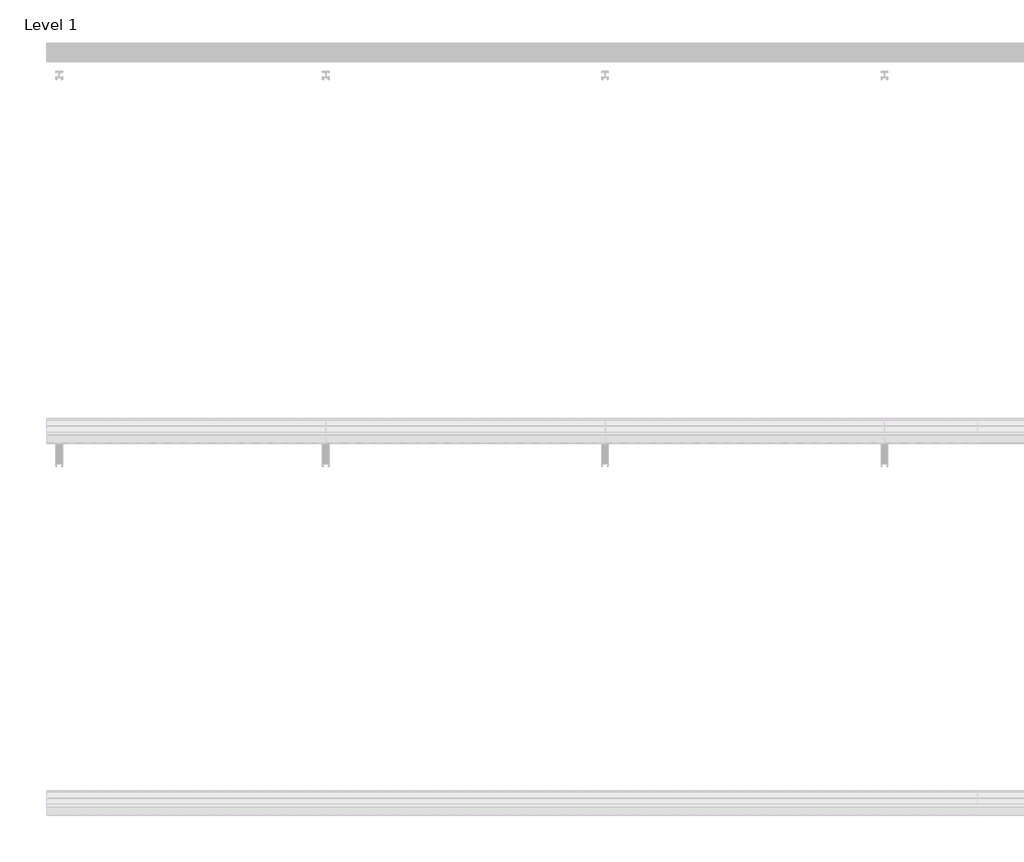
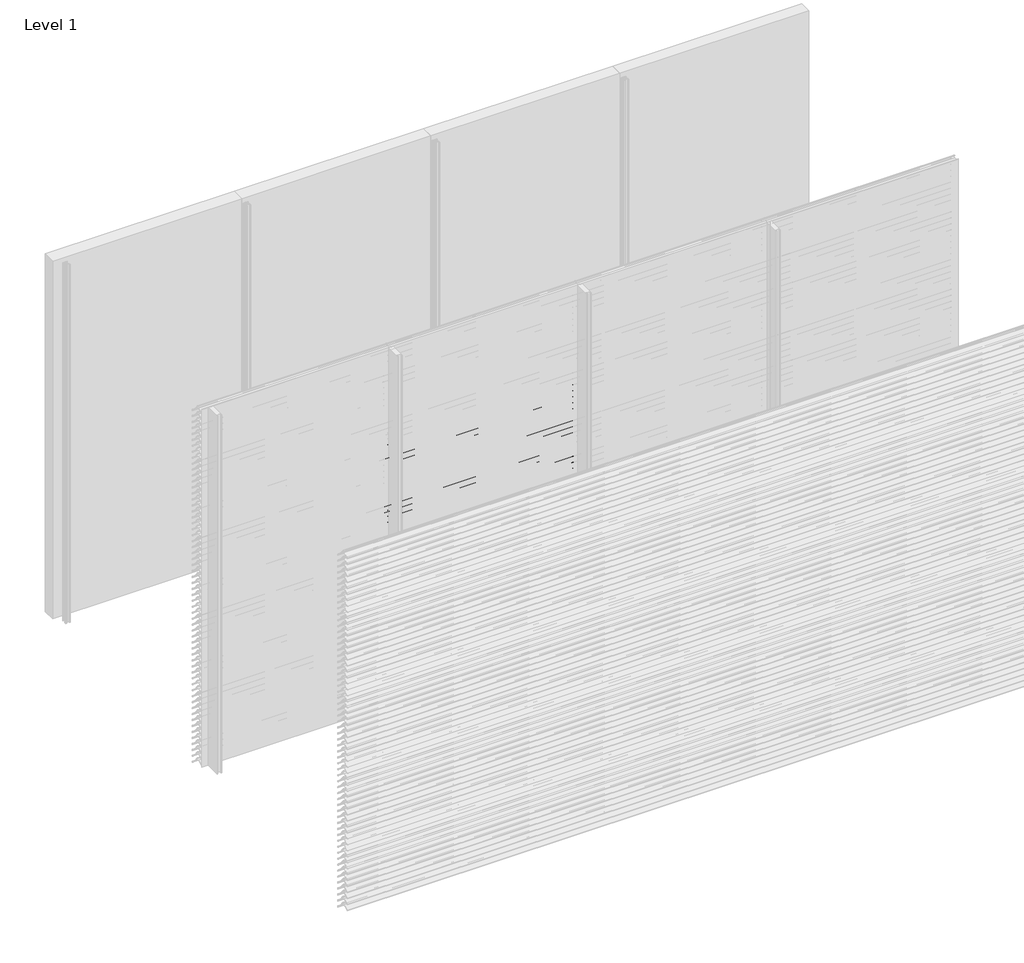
# One storey, part 28 of 173: 17 proxies.
"""IFC4 building model written with IfcOpenShell, lengths in millimetres."""

from ifc_helpers import new_model, si_unit, point, frame, frame_2d, origin, place, context, project, spatial, polyline, circle_curve, trimmed, segment, composite_curve, outline, extrude, element, save

model = new_model("IFC4")

# Units and contexts
model_context = context("Model", 3, world=origin())
ifc_project = project(units=[si_unit("LENGTHUNIT", "METRE", prefix="MILLI")], contexts=[model_context])

# Site, building, storey
site = spatial("IfcSite", under=ifc_project)
building = spatial("IfcBuilding", under=site)
storey = spatial("IfcBuildingStorey", under=building, Name="Level 1", Elevation=0.0)

# Proxies
placement = place(None, origin())
element("IfcBuildingElementProxy", 1, Name="Wall Sweeps", at=placement, inside=storey, context=model_context, shape_type="SweptSolid", body=[
    extrude(outline(composite_curve([segment(polyline([(-47998.0, 2109.1474905), (-47998.0, 2111.6227417)]), True, "CONTINUOUS"), segment(trimmed(circle_curve(frame_2d((-47951.2682172, 2066.2200208)), 65.1557103), [point((-47998.0, 2111.6227417))], [point((-47954.4014323, 2131.3003524))], False, "CARTESIAN"), True, "CONTINUOUS"), segment(polyline([(-47954.4014323, 2131.3003524), (-47934.8315836, 2131.3003524)]), True, "CONTINUOUS"), segment(trimmed(circle_curve(frame_2d((-47732.7329489, 2278.5533172)), 250.0545817), [point((-47934.8315836, 2131.3003524))], [point((-47941.4452143, 2140.8344583))], False, "CARTESIAN"), True, "CONTINUOUS"), segment(trimmed(circle_curve(frame_2d((-47953.2981792, 2135.1737835)), 13.1352966), [point((-47941.4452143, 2140.8344583))], [point((-47953.8171475, 2148.298824))], True, "CARTESIAN"), True, "CONTINUOUS"), segment(polyline([(-47953.8171475, 2148.298824), (-47953.8171475, 2150.0)]), True, "CONTINUOUS"), segment(trimmed(circle_curve(frame_2d((-47953.2981792, 2135.1737835)), 14.8352966), [point((-47953.8171475, 2150.0))], [point((-47939.9637661, 2141.6760487))], False, "CARTESIAN"), True, "CONTINUOUS"), segment(trimmed(circle_curve(frame_2d((-47732.7329489, 2278.5533172)), 248.3545817), [point((-47939.9637661, 2141.6760487))], [point((-47873.8787895, 2074.2059416))], True, "CARTESIAN"), True, "CONTINUOUS"), segment(trimmed(circle_curve(frame_2d((-47883.8147537, 2061.6649442)), 16.0), [point((-47873.8787895, 2074.2059416))], [point((-47867.8648347, 2060.4))], False, "CARTESIAN"), True, "CONTINUOUS"), segment(polyline([(-47867.8648347, 2060.4), (-47869.6712069, 2060.4)]), True, "CONTINUOUS"), segment(trimmed(circle_curve(frame_2d((-47883.8147537, 2061.6649442)), 14.2), [point((-47869.6712069, 2060.4))], [point((-47874.9518628, 2072.7594998))], True, "CARTESIAN"), True, "CONTINUOUS"), segment(trimmed(circle_curve(frame_2d((-47732.7329489, 2278.5533172)), 250.1545817), [point((-47874.9518628, 2072.7594998))], [point((-47933.7064024, 2129.6003524))], False, "CARTESIAN"), True, "CONTINUOUS"), segment(polyline([(-47933.7064024, 2129.6003524), (-47954.3602632, 2129.6003524)]), True, "CONTINUOUS"), segment(trimmed(circle_curve(frame_2d((-47951.2682172, 2066.2200208)), 63.4557103), [point((-47954.3602632, 2129.6003524))], [point((-47998.0, 2109.1474905))], True, "CARTESIAN"), True, "CONTINUOUS")], self_intersect=False)), frame((1500.0, 0.0, 0.0), z_axis=(1.0, 0.0, 0.0), x_axis=(0.0, 1.0, 0.0)), (0.0, 0.0, 1.0), 1500.0),
])
element("IfcBuildingElementProxy", 2, Name="Wall Sweeps", at=placement, inside=storey, context=model_context, shape_type="SweptSolid", body=[
    extrude(outline(composite_curve([segment(polyline([(-47998.0, 2059.1474905), (-47998.0, 2061.6227417)]), True, "CONTINUOUS"), segment(trimmed(circle_curve(frame_2d((-47951.2682172, 2016.2200208)), 65.1557103), [point((-47998.0, 2061.6227417))], [point((-47954.4014323, 2081.3003524))], False, "CARTESIAN"), True, "CONTINUOUS"), segment(polyline([(-47954.4014323, 2081.3003524), (-47934.8315836, 2081.3003524)]), True, "CONTINUOUS"), segment(trimmed(circle_curve(frame_2d((-47732.7329489, 2228.5533172)), 250.0545817), [point((-47934.8315836, 2081.3003524))], [point((-47941.4452143, 2090.8344583))], False, "CARTESIAN"), True, "CONTINUOUS"), segment(trimmed(circle_curve(frame_2d((-47953.2981792, 2085.1737835)), 13.1352966), [point((-47941.4452143, 2090.8344583))], [point((-47953.8171475, 2098.298824))], True, "CARTESIAN"), True, "CONTINUOUS"), segment(polyline([(-47953.8171475, 2098.298824), (-47953.8171475, 2100.0)]), True, "CONTINUOUS"), segment(trimmed(circle_curve(frame_2d((-47953.2981792, 2085.1737835)), 14.8352966), [point((-47953.8171475, 2100.0))], [point((-47939.9637661, 2091.6760487))], False, "CARTESIAN"), True, "CONTINUOUS"), segment(trimmed(circle_curve(frame_2d((-47732.7329489, 2228.5533172)), 248.3545817), [point((-47939.9637661, 2091.6760487))], [point((-47873.8787895, 2024.2059416))], True, "CARTESIAN"), True, "CONTINUOUS"), segment(trimmed(circle_curve(frame_2d((-47883.8147537, 2011.6649442)), 16.0), [point((-47873.8787895, 2024.2059416))], [point((-47867.8648347, 2010.4))], False, "CARTESIAN"), True, "CONTINUOUS"), segment(polyline([(-47867.8648347, 2010.4), (-47869.6712069, 2010.4)]), True, "CONTINUOUS"), segment(trimmed(circle_curve(frame_2d((-47883.8147537, 2011.6649442)), 14.2), [point((-47869.6712069, 2010.4))], [point((-47874.9518628, 2022.7594998))], True, "CARTESIAN"), True, "CONTINUOUS"), segment(trimmed(circle_curve(frame_2d((-47732.7329489, 2228.5533172)), 250.1545817), [point((-47874.9518628, 2022.7594998))], [point((-47933.7064024, 2079.6003524))], False, "CARTESIAN"), True, "CONTINUOUS"), segment(polyline([(-47933.7064024, 2079.6003524), (-47954.3602632, 2079.6003524)]), True, "CONTINUOUS"), segment(trimmed(circle_curve(frame_2d((-47951.2682172, 2016.2200208)), 63.4557103), [point((-47954.3602632, 2079.6003524))], [point((-47998.0, 2059.1474905))], True, "CARTESIAN"), True, "CONTINUOUS")], self_intersect=False)), frame((1500.0, 0.0, 0.0), z_axis=(1.0, 0.0, 0.0), x_axis=(0.0, 1.0, 0.0)), (0.0, 0.0, 1.0), 1500.0),
])
element("IfcBuildingElementProxy", 3, Name="Wall Sweeps", at=placement, inside=storey, context=model_context, shape_type="SweptSolid", body=[
    extrude(outline(composite_curve([segment(polyline([(-47998.0, 2009.1474905), (-47998.0, 2011.6227417)]), True, "CONTINUOUS"), segment(trimmed(circle_curve(frame_2d((-47951.2682172, 1966.2200208)), 65.1557103), [point((-47998.0, 2011.6227417))], [point((-47954.4014323, 2031.3003524))], False, "CARTESIAN"), True, "CONTINUOUS"), segment(polyline([(-47954.4014323, 2031.3003524), (-47934.8315836, 2031.3003524)]), True, "CONTINUOUS"), segment(trimmed(circle_curve(frame_2d((-47732.7329489, 2178.5533172)), 250.0545817), [point((-47934.8315836, 2031.3003524))], [point((-47941.4452143, 2040.8344583))], False, "CARTESIAN"), True, "CONTINUOUS"), segment(trimmed(circle_curve(frame_2d((-47953.2981792, 2035.1737835)), 13.1352966), [point((-47941.4452143, 2040.8344583))], [point((-47953.8171475, 2048.298824))], True, "CARTESIAN"), True, "CONTINUOUS"), segment(polyline([(-47953.8171475, 2048.298824), (-47953.8171475, 2050.0)]), True, "CONTINUOUS"), segment(trimmed(circle_curve(frame_2d((-47953.2981792, 2035.1737835)), 14.8352966), [point((-47953.8171475, 2050.0))], [point((-47939.9637661, 2041.6760487))], False, "CARTESIAN"), True, "CONTINUOUS"), segment(trimmed(circle_curve(frame_2d((-47732.7329489, 2178.5533172)), 248.3545817), [point((-47939.9637661, 2041.6760487))], [point((-47873.8787895, 1974.2059416))], True, "CARTESIAN"), True, "CONTINUOUS"), segment(trimmed(circle_curve(frame_2d((-47883.8147537, 1961.6649442)), 16.0), [point((-47873.8787895, 1974.2059416))], [point((-47867.8648347, 1960.4))], False, "CARTESIAN"), True, "CONTINUOUS"), segment(polyline([(-47867.8648347, 1960.4), (-47869.6712069, 1960.4)]), True, "CONTINUOUS"), segment(trimmed(circle_curve(frame_2d((-47883.8147537, 1961.6649442)), 14.2), [point((-47869.6712069, 1960.4))], [point((-47874.9518628, 1972.7594998))], True, "CARTESIAN"), True, "CONTINUOUS"), segment(trimmed(circle_curve(frame_2d((-47732.7329489, 2178.5533172)), 250.1545817), [point((-47874.9518628, 1972.7594998))], [point((-47933.7064024, 2029.6003524))], False, "CARTESIAN"), True, "CONTINUOUS"), segment(polyline([(-47933.7064024, 2029.6003524), (-47954.3602632, 2029.6003524)]), True, "CONTINUOUS"), segment(trimmed(circle_curve(frame_2d((-47951.2682172, 1966.2200208)), 63.4557103), [point((-47954.3602632, 2029.6003524))], [point((-47998.0, 2009.1474905))], True, "CARTESIAN"), True, "CONTINUOUS")], self_intersect=False)), frame((1500.0, 0.0, 0.0), z_axis=(1.0, 0.0, 0.0), x_axis=(0.0, 1.0, 0.0)), (0.0, 0.0, 1.0), 1500.0),
])
element("IfcBuildingElementProxy", 4, Name="Wall Sweeps", at=placement, inside=storey, context=model_context, shape_type="SweptSolid", body=[
    extrude(outline(composite_curve([segment(polyline([(-47998.0, 1959.1474905), (-47998.0, 1961.6227417)]), True, "CONTINUOUS"), segment(trimmed(circle_curve(frame_2d((-47951.2682172, 1916.2200208)), 65.1557103), [point((-47998.0, 1961.6227417))], [point((-47954.4014323, 1981.3003524))], False, "CARTESIAN"), True, "CONTINUOUS"), segment(polyline([(-47954.4014323, 1981.3003524), (-47934.8315836, 1981.3003524)]), True, "CONTINUOUS"), segment(trimmed(circle_curve(frame_2d((-47732.7329489, 2128.5533172)), 250.0545817), [point((-47934.8315836, 1981.3003524))], [point((-47941.4452143, 1990.8344583))], False, "CARTESIAN"), True, "CONTINUOUS"), segment(trimmed(circle_curve(frame_2d((-47953.2981792, 1985.1737835)), 13.1352966), [point((-47941.4452143, 1990.8344583))], [point((-47953.8171475, 1998.298824))], True, "CARTESIAN"), True, "CONTINUOUS"), segment(polyline([(-47953.8171475, 1998.298824), (-47953.8171475, 2000.0)]), True, "CONTINUOUS"), segment(trimmed(circle_curve(frame_2d((-47953.2981792, 1985.1737835)), 14.8352966), [point((-47953.8171475, 2000.0))], [point((-47939.9637661, 1991.6760487))], False, "CARTESIAN"), True, "CONTINUOUS"), segment(trimmed(circle_curve(frame_2d((-47732.7329489, 2128.5533172)), 248.3545817), [point((-47939.9637661, 1991.6760487))], [point((-47873.8787895, 1924.2059416))], True, "CARTESIAN"), True, "CONTINUOUS"), segment(trimmed(circle_curve(frame_2d((-47883.8147537, 1911.6649442)), 16.0), [point((-47873.8787895, 1924.2059416))], [point((-47867.8648347, 1910.4))], False, "CARTESIAN"), True, "CONTINUOUS"), segment(polyline([(-47867.8648347, 1910.4), (-47869.6712069, 1910.4)]), True, "CONTINUOUS"), segment(trimmed(circle_curve(frame_2d((-47883.8147537, 1911.6649442)), 14.2), [point((-47869.6712069, 1910.4))], [point((-47874.9518628, 1922.7594998))], True, "CARTESIAN"), True, "CONTINUOUS"), segment(trimmed(circle_curve(frame_2d((-47732.7329489, 2128.5533172)), 250.1545817), [point((-47874.9518628, 1922.7594998))], [point((-47933.7064024, 1979.6003524))], False, "CARTESIAN"), True, "CONTINUOUS"), segment(polyline([(-47933.7064024, 1979.6003524), (-47954.3602632, 1979.6003524)]), True, "CONTINUOUS"), segment(trimmed(circle_curve(frame_2d((-47951.2682172, 1916.2200208)), 63.4557103), [point((-47954.3602632, 1979.6003524))], [point((-47998.0, 1959.1474905))], True, "CARTESIAN"), True, "CONTINUOUS")], self_intersect=False)), frame((1500.0, 0.0, 0.0), z_axis=(1.0, 0.0, 0.0), x_axis=(0.0, 1.0, 0.0)), (0.0, 0.0, 1.0), 1500.0),
])
element("IfcBuildingElementProxy", 5, Name="Wall Sweeps", at=placement, inside=storey, context=model_context, shape_type="SweptSolid", body=[
    extrude(outline(composite_curve([segment(polyline([(-47998.0, 1909.1474905), (-47998.0, 1911.6227417)]), True, "CONTINUOUS"), segment(trimmed(circle_curve(frame_2d((-47951.2682172, 1866.2200208)), 65.1557103), [point((-47998.0, 1911.6227417))], [point((-47954.4014323, 1931.3003524))], False, "CARTESIAN"), True, "CONTINUOUS"), segment(polyline([(-47954.4014323, 1931.3003524), (-47934.8315836, 1931.3003524)]), True, "CONTINUOUS"), segment(trimmed(circle_curve(frame_2d((-47732.7329489, 2078.5533172)), 250.0545817), [point((-47934.8315836, 1931.3003524))], [point((-47941.4452143, 1940.8344583))], False, "CARTESIAN"), True, "CONTINUOUS"), segment(trimmed(circle_curve(frame_2d((-47953.2981792, 1935.1737835)), 13.1352966), [point((-47941.4452143, 1940.8344583))], [point((-47953.8171475, 1948.298824))], True, "CARTESIAN"), True, "CONTINUOUS"), segment(polyline([(-47953.8171475, 1948.298824), (-47953.8171475, 1950.0)]), True, "CONTINUOUS"), segment(trimmed(circle_curve(frame_2d((-47953.2981792, 1935.1737835)), 14.8352966), [point((-47953.8171475, 1950.0))], [point((-47939.9637661, 1941.6760487))], False, "CARTESIAN"), True, "CONTINUOUS"), segment(trimmed(circle_curve(frame_2d((-47732.7329489, 2078.5533172)), 248.3545817), [point((-47939.9637661, 1941.6760487))], [point((-47873.8787895, 1874.2059416))], True, "CARTESIAN"), True, "CONTINUOUS"), segment(trimmed(circle_curve(frame_2d((-47883.8147537, 1861.6649442)), 16.0), [point((-47873.8787895, 1874.2059416))], [point((-47867.8648347, 1860.4))], False, "CARTESIAN"), True, "CONTINUOUS"), segment(polyline([(-47867.8648347, 1860.4), (-47869.6712069, 1860.4)]), True, "CONTINUOUS"), segment(trimmed(circle_curve(frame_2d((-47883.8147537, 1861.6649442)), 14.2), [point((-47869.6712069, 1860.4))], [point((-47874.9518628, 1872.7594998))], True, "CARTESIAN"), True, "CONTINUOUS"), segment(trimmed(circle_curve(frame_2d((-47732.7329489, 2078.5533172)), 250.1545817), [point((-47874.9518628, 1872.7594998))], [point((-47933.7064024, 1929.6003524))], False, "CARTESIAN"), True, "CONTINUOUS"), segment(polyline([(-47933.7064024, 1929.6003524), (-47954.3602632, 1929.6003524)]), True, "CONTINUOUS"), segment(trimmed(circle_curve(frame_2d((-47951.2682172, 1866.2200208)), 63.4557103), [point((-47954.3602632, 1929.6003524))], [point((-47998.0, 1909.1474905))], True, "CARTESIAN"), True, "CONTINUOUS")], self_intersect=False)), frame((1500.0, 0.0, 0.0), z_axis=(1.0, 0.0, 0.0), x_axis=(0.0, 1.0, 0.0)), (0.0, 0.0, 1.0), 1500.0),
])
element("IfcBuildingElementProxy", 6, Name="Wall Sweeps", at=placement, inside=storey, context=model_context, shape_type="SweptSolid", body=[
    extrude(outline(composite_curve([segment(polyline([(-47998.0, 1859.1474905), (-47998.0, 1861.6227417)]), True, "CONTINUOUS"), segment(trimmed(circle_curve(frame_2d((-47951.2682172, 1816.2200208)), 65.1557103), [point((-47998.0, 1861.6227417))], [point((-47954.4014323, 1881.3003524))], False, "CARTESIAN"), True, "CONTINUOUS"), segment(polyline([(-47954.4014323, 1881.3003524), (-47934.8315836, 1881.3003524)]), True, "CONTINUOUS"), segment(trimmed(circle_curve(frame_2d((-47732.7329489, 2028.5533172)), 250.0545817), [point((-47934.8315836, 1881.3003524))], [point((-47941.4452143, 1890.8344583))], False, "CARTESIAN"), True, "CONTINUOUS"), segment(trimmed(circle_curve(frame_2d((-47953.2981792, 1885.1737835)), 13.1352966), [point((-47941.4452143, 1890.8344583))], [point((-47953.8171475, 1898.298824))], True, "CARTESIAN"), True, "CONTINUOUS"), segment(polyline([(-47953.8171475, 1898.298824), (-47953.8171475, 1900.0)]), True, "CONTINUOUS"), segment(trimmed(circle_curve(frame_2d((-47953.2981792, 1885.1737835)), 14.8352966), [point((-47953.8171475, 1900.0))], [point((-47939.9637661, 1891.6760487))], False, "CARTESIAN"), True, "CONTINUOUS"), segment(trimmed(circle_curve(frame_2d((-47732.7329489, 2028.5533172)), 248.3545817), [point((-47939.9637661, 1891.6760487))], [point((-47873.8787895, 1824.2059416))], True, "CARTESIAN"), True, "CONTINUOUS"), segment(trimmed(circle_curve(frame_2d((-47883.8147537, 1811.6649442)), 16.0), [point((-47873.8787895, 1824.2059416))], [point((-47867.8648347, 1810.4))], False, "CARTESIAN"), True, "CONTINUOUS"), segment(polyline([(-47867.8648347, 1810.4), (-47869.6712069, 1810.4)]), True, "CONTINUOUS"), segment(trimmed(circle_curve(frame_2d((-47883.8147537, 1811.6649442)), 14.2), [point((-47869.6712069, 1810.4))], [point((-47874.9518628, 1822.7594998))], True, "CARTESIAN"), True, "CONTINUOUS"), segment(trimmed(circle_curve(frame_2d((-47732.7329489, 2028.5533172)), 250.1545817), [point((-47874.9518628, 1822.7594998))], [point((-47933.7064024, 1879.6003524))], False, "CARTESIAN"), True, "CONTINUOUS"), segment(polyline([(-47933.7064024, 1879.6003524), (-47954.3602632, 1879.6003524)]), True, "CONTINUOUS"), segment(trimmed(circle_curve(frame_2d((-47951.2682172, 1816.2200208)), 63.4557103), [point((-47954.3602632, 1879.6003524))], [point((-47998.0, 1859.1474905))], True, "CARTESIAN"), True, "CONTINUOUS")], self_intersect=False)), frame((1500.0, 0.0, 0.0), z_axis=(1.0, 0.0, 0.0), x_axis=(0.0, 1.0, 0.0)), (0.0, 0.0, 1.0), 1500.0),
])
element("IfcBuildingElementProxy", 7, Name="Wall Sweeps", at=placement, inside=storey, context=model_context, shape_type="SweptSolid", body=[
    extrude(outline(composite_curve([segment(polyline([(-47998.0, 1809.1474905), (-47998.0, 1811.6227417)]), True, "CONTINUOUS"), segment(trimmed(circle_curve(frame_2d((-47951.2682172, 1766.2200208)), 65.1557103), [point((-47998.0, 1811.6227417))], [point((-47954.4014323, 1831.3003524))], False, "CARTESIAN"), True, "CONTINUOUS"), segment(polyline([(-47954.4014323, 1831.3003524), (-47934.8315836, 1831.3003524)]), True, "CONTINUOUS"), segment(trimmed(circle_curve(frame_2d((-47732.7329489, 1978.5533172)), 250.0545817), [point((-47934.8315836, 1831.3003524))], [point((-47941.4452143, 1840.8344583))], False, "CARTESIAN"), True, "CONTINUOUS"), segment(trimmed(circle_curve(frame_2d((-47953.2981792, 1835.1737835)), 13.1352966), [point((-47941.4452143, 1840.8344583))], [point((-47953.8171475, 1848.298824))], True, "CARTESIAN"), True, "CONTINUOUS"), segment(polyline([(-47953.8171475, 1848.298824), (-47953.8171475, 1850.0)]), True, "CONTINUOUS"), segment(trimmed(circle_curve(frame_2d((-47953.2981792, 1835.1737835)), 14.8352966), [point((-47953.8171475, 1850.0))], [point((-47939.9637661, 1841.6760487))], False, "CARTESIAN"), True, "CONTINUOUS"), segment(trimmed(circle_curve(frame_2d((-47732.7329489, 1978.5533172)), 248.3545817), [point((-47939.9637661, 1841.6760487))], [point((-47873.8787895, 1774.2059416))], True, "CARTESIAN"), True, "CONTINUOUS"), segment(trimmed(circle_curve(frame_2d((-47883.8147537, 1761.6649442)), 16.0), [point((-47873.8787895, 1774.2059416))], [point((-47867.8648347, 1760.4))], False, "CARTESIAN"), True, "CONTINUOUS"), segment(polyline([(-47867.8648347, 1760.4), (-47869.6712069, 1760.4)]), True, "CONTINUOUS"), segment(trimmed(circle_curve(frame_2d((-47883.8147537, 1761.6649442)), 14.2), [point((-47869.6712069, 1760.4))], [point((-47874.9518628, 1772.7594998))], True, "CARTESIAN"), True, "CONTINUOUS"), segment(trimmed(circle_curve(frame_2d((-47732.7329489, 1978.5533172)), 250.1545817), [point((-47874.9518628, 1772.7594998))], [point((-47933.7064024, 1829.6003524))], False, "CARTESIAN"), True, "CONTINUOUS"), segment(polyline([(-47933.7064024, 1829.6003524), (-47954.3602632, 1829.6003524)]), True, "CONTINUOUS"), segment(trimmed(circle_curve(frame_2d((-47951.2682172, 1766.2200208)), 63.4557103), [point((-47954.3602632, 1829.6003524))], [point((-47998.0, 1809.1474905))], True, "CARTESIAN"), True, "CONTINUOUS")], self_intersect=False)), frame((1500.0, 0.0, 0.0), z_axis=(1.0, 0.0, 0.0), x_axis=(0.0, 1.0, 0.0)), (0.0, 0.0, 1.0), 1500.0),
])
element("IfcBuildingElementProxy", 8, Name="Wall Sweeps", at=placement, inside=storey, context=model_context, shape_type="SweptSolid", body=[
    extrude(outline(composite_curve([segment(polyline([(-47998.0, 1759.1474905), (-47998.0, 1761.6227417)]), True, "CONTINUOUS"), segment(trimmed(circle_curve(frame_2d((-47951.2682172, 1716.2200208)), 65.1557103), [point((-47998.0, 1761.6227417))], [point((-47954.4014323, 1781.3003524))], False, "CARTESIAN"), True, "CONTINUOUS"), segment(polyline([(-47954.4014323, 1781.3003524), (-47934.8315836, 1781.3003524)]), True, "CONTINUOUS"), segment(trimmed(circle_curve(frame_2d((-47732.7329489, 1928.5533172)), 250.0545817), [point((-47934.8315836, 1781.3003524))], [point((-47941.4452143, 1790.8344583))], False, "CARTESIAN"), True, "CONTINUOUS"), segment(trimmed(circle_curve(frame_2d((-47953.2981792, 1785.1737835)), 13.1352966), [point((-47941.4452143, 1790.8344583))], [point((-47953.8171475, 1798.298824))], True, "CARTESIAN"), True, "CONTINUOUS"), segment(polyline([(-47953.8171475, 1798.298824), (-47953.8171475, 1800.0)]), True, "CONTINUOUS"), segment(trimmed(circle_curve(frame_2d((-47953.2981792, 1785.1737835)), 14.8352966), [point((-47953.8171475, 1800.0))], [point((-47939.9637661, 1791.6760487))], False, "CARTESIAN"), True, "CONTINUOUS"), segment(trimmed(circle_curve(frame_2d((-47732.7329489, 1928.5533172)), 248.3545817), [point((-47939.9637661, 1791.6760487))], [point((-47873.8787895, 1724.2059416))], True, "CARTESIAN"), True, "CONTINUOUS"), segment(trimmed(circle_curve(frame_2d((-47883.8147537, 1711.6649442)), 16.0), [point((-47873.8787895, 1724.2059416))], [point((-47867.8648347, 1710.4))], False, "CARTESIAN"), True, "CONTINUOUS"), segment(polyline([(-47867.8648347, 1710.4), (-47869.6712069, 1710.4)]), True, "CONTINUOUS"), segment(trimmed(circle_curve(frame_2d((-47883.8147537, 1711.6649442)), 14.2), [point((-47869.6712069, 1710.4))], [point((-47874.9518628, 1722.7594998))], True, "CARTESIAN"), True, "CONTINUOUS"), segment(trimmed(circle_curve(frame_2d((-47732.7329489, 1928.5533172)), 250.1545817), [point((-47874.9518628, 1722.7594998))], [point((-47933.7064024, 1779.6003524))], False, "CARTESIAN"), True, "CONTINUOUS"), segment(polyline([(-47933.7064024, 1779.6003524), (-47954.3602632, 1779.6003524)]), True, "CONTINUOUS"), segment(trimmed(circle_curve(frame_2d((-47951.2682172, 1716.2200208)), 63.4557103), [point((-47954.3602632, 1779.6003524))], [point((-47998.0, 1759.1474905))], True, "CARTESIAN"), True, "CONTINUOUS")], self_intersect=False)), frame((1500.0, 0.0, 0.0), z_axis=(1.0, 0.0, 0.0), x_axis=(0.0, 1.0, 0.0)), (0.0, 0.0, 1.0), 1500.0),
])
element("IfcBuildingElementProxy", 9, Name="Wall Sweeps", at=placement, inside=storey, context=model_context, shape_type="SweptSolid", body=[
    extrude(outline(composite_curve([segment(polyline([(-47998.0, 1709.1474905), (-47998.0, 1711.6227417)]), True, "CONTINUOUS"), segment(trimmed(circle_curve(frame_2d((-47951.2682172, 1666.2200208)), 65.1557103), [point((-47998.0, 1711.6227417))], [point((-47954.4014323, 1731.3003524))], False, "CARTESIAN"), True, "CONTINUOUS"), segment(polyline([(-47954.4014323, 1731.3003524), (-47934.8315836, 1731.3003524)]), True, "CONTINUOUS"), segment(trimmed(circle_curve(frame_2d((-47732.7329489, 1878.5533172)), 250.0545817), [point((-47934.8315836, 1731.3003524))], [point((-47941.4452143, 1740.8344583))], False, "CARTESIAN"), True, "CONTINUOUS"), segment(trimmed(circle_curve(frame_2d((-47953.2981792, 1735.1737835)), 13.1352966), [point((-47941.4452143, 1740.8344583))], [point((-47953.8171475, 1748.298824))], True, "CARTESIAN"), True, "CONTINUOUS"), segment(polyline([(-47953.8171475, 1748.298824), (-47953.8171475, 1750.0)]), True, "CONTINUOUS"), segment(trimmed(circle_curve(frame_2d((-47953.2981792, 1735.1737835)), 14.8352966), [point((-47953.8171475, 1750.0))], [point((-47939.9637661, 1741.6760487))], False, "CARTESIAN"), True, "CONTINUOUS"), segment(trimmed(circle_curve(frame_2d((-47732.7329489, 1878.5533172)), 248.3545817), [point((-47939.9637661, 1741.6760487))], [point((-47873.8787895, 1674.2059416))], True, "CARTESIAN"), True, "CONTINUOUS"), segment(trimmed(circle_curve(frame_2d((-47883.8147537, 1661.6649442)), 16.0), [point((-47873.8787895, 1674.2059416))], [point((-47867.8648347, 1660.4))], False, "CARTESIAN"), True, "CONTINUOUS"), segment(polyline([(-47867.8648347, 1660.4), (-47869.6712069, 1660.4)]), True, "CONTINUOUS"), segment(trimmed(circle_curve(frame_2d((-47883.8147537, 1661.6649442)), 14.2), [point((-47869.6712069, 1660.4))], [point((-47874.9518628, 1672.7594998))], True, "CARTESIAN"), True, "CONTINUOUS"), segment(trimmed(circle_curve(frame_2d((-47732.7329489, 1878.5533172)), 250.1545817), [point((-47874.9518628, 1672.7594998))], [point((-47933.7064024, 1729.6003524))], False, "CARTESIAN"), True, "CONTINUOUS"), segment(polyline([(-47933.7064024, 1729.6003524), (-47954.3602632, 1729.6003524)]), True, "CONTINUOUS"), segment(trimmed(circle_curve(frame_2d((-47951.2682172, 1666.2200208)), 63.4557103), [point((-47954.3602632, 1729.6003524))], [point((-47998.0, 1709.1474905))], True, "CARTESIAN"), True, "CONTINUOUS")], self_intersect=False)), frame((1500.0, 0.0, 0.0), z_axis=(1.0, 0.0, 0.0), x_axis=(0.0, 1.0, 0.0)), (0.0, 0.0, 1.0), 1500.0),
])
element("IfcBuildingElementProxy", 10, Name="Wall Sweeps", at=placement, inside=storey, context=model_context, shape_type="SweptSolid", body=[
    extrude(outline(composite_curve([segment(polyline([(-47998.0, 1659.1474905), (-47998.0, 1661.6227417)]), True, "CONTINUOUS"), segment(trimmed(circle_curve(frame_2d((-47951.2682172, 1616.2200208)), 65.1557103), [point((-47998.0, 1661.6227417))], [point((-47954.4014323, 1681.3003524))], False, "CARTESIAN"), True, "CONTINUOUS"), segment(polyline([(-47954.4014323, 1681.3003524), (-47934.8315836, 1681.3003524)]), True, "CONTINUOUS"), segment(trimmed(circle_curve(frame_2d((-47732.7329489, 1828.5533172)), 250.0545817), [point((-47934.8315836, 1681.3003524))], [point((-47941.4452143, 1690.8344583))], False, "CARTESIAN"), True, "CONTINUOUS"), segment(trimmed(circle_curve(frame_2d((-47953.2981792, 1685.1737835)), 13.1352966), [point((-47941.4452143, 1690.8344583))], [point((-47953.8171475, 1698.298824))], True, "CARTESIAN"), True, "CONTINUOUS"), segment(polyline([(-47953.8171475, 1698.298824), (-47953.8171475, 1700.0)]), True, "CONTINUOUS"), segment(trimmed(circle_curve(frame_2d((-47953.2981792, 1685.1737835)), 14.8352966), [point((-47953.8171475, 1700.0))], [point((-47939.9637661, 1691.6760487))], False, "CARTESIAN"), True, "CONTINUOUS"), segment(trimmed(circle_curve(frame_2d((-47732.7329489, 1828.5533172)), 248.3545817), [point((-47939.9637661, 1691.6760487))], [point((-47873.8787895, 1624.2059416))], True, "CARTESIAN"), True, "CONTINUOUS"), segment(trimmed(circle_curve(frame_2d((-47883.8147537, 1611.6649442)), 16.0), [point((-47873.8787895, 1624.2059416))], [point((-47867.8648347, 1610.4))], False, "CARTESIAN"), True, "CONTINUOUS"), segment(polyline([(-47867.8648347, 1610.4), (-47869.6712069, 1610.4)]), True, "CONTINUOUS"), segment(trimmed(circle_curve(frame_2d((-47883.8147537, 1611.6649442)), 14.2), [point((-47869.6712069, 1610.4))], [point((-47874.9518628, 1622.7594998))], True, "CARTESIAN"), True, "CONTINUOUS"), segment(trimmed(circle_curve(frame_2d((-47732.7329489, 1828.5533172)), 250.1545817), [point((-47874.9518628, 1622.7594998))], [point((-47933.7064024, 1679.6003524))], False, "CARTESIAN"), True, "CONTINUOUS"), segment(polyline([(-47933.7064024, 1679.6003524), (-47954.3602632, 1679.6003524)]), True, "CONTINUOUS"), segment(trimmed(circle_curve(frame_2d((-47951.2682172, 1616.2200208)), 63.4557103), [point((-47954.3602632, 1679.6003524))], [point((-47998.0, 1659.1474905))], True, "CARTESIAN"), True, "CONTINUOUS")], self_intersect=False)), frame((1500.0, 0.0, 0.0), z_axis=(1.0, 0.0, 0.0), x_axis=(0.0, 1.0, 0.0)), (0.0, 0.0, 1.0), 1500.0),
])
element("IfcBuildingElementProxy", 11, Name="Wall Sweeps", at=placement, inside=storey, context=model_context, shape_type="SweptSolid", body=[
    extrude(outline(composite_curve([segment(polyline([(-47998.0, 1609.1474905), (-47998.0, 1611.6227417)]), True, "CONTINUOUS"), segment(trimmed(circle_curve(frame_2d((-47951.2682172, 1566.2200208)), 65.1557103), [point((-47998.0, 1611.6227417))], [point((-47954.4014323, 1631.3003524))], False, "CARTESIAN"), True, "CONTINUOUS"), segment(polyline([(-47954.4014323, 1631.3003524), (-47934.8315836, 1631.3003524)]), True, "CONTINUOUS"), segment(trimmed(circle_curve(frame_2d((-47732.7329489, 1778.5533172)), 250.0545817), [point((-47934.8315836, 1631.3003524))], [point((-47941.4452143, 1640.8344583))], False, "CARTESIAN"), True, "CONTINUOUS"), segment(trimmed(circle_curve(frame_2d((-47953.2981792, 1635.1737835)), 13.1352966), [point((-47941.4452143, 1640.8344583))], [point((-47953.8171475, 1648.298824))], True, "CARTESIAN"), True, "CONTINUOUS"), segment(polyline([(-47953.8171475, 1648.298824), (-47953.8171475, 1650.0)]), True, "CONTINUOUS"), segment(trimmed(circle_curve(frame_2d((-47953.2981792, 1635.1737835)), 14.8352966), [point((-47953.8171475, 1650.0))], [point((-47939.9637661, 1641.6760487))], False, "CARTESIAN"), True, "CONTINUOUS"), segment(trimmed(circle_curve(frame_2d((-47732.7329489, 1778.5533172)), 248.3545817), [point((-47939.9637661, 1641.6760487))], [point((-47873.8787895, 1574.2059416))], True, "CARTESIAN"), True, "CONTINUOUS"), segment(trimmed(circle_curve(frame_2d((-47883.8147537, 1561.6649442)), 16.0), [point((-47873.8787895, 1574.2059416))], [point((-47867.8648347, 1560.4))], False, "CARTESIAN"), True, "CONTINUOUS"), segment(polyline([(-47867.8648347, 1560.4), (-47869.6712069, 1560.4)]), True, "CONTINUOUS"), segment(trimmed(circle_curve(frame_2d((-47883.8147537, 1561.6649442)), 14.2), [point((-47869.6712069, 1560.4))], [point((-47874.9518628, 1572.7594998))], True, "CARTESIAN"), True, "CONTINUOUS"), segment(trimmed(circle_curve(frame_2d((-47732.7329489, 1778.5533172)), 250.1545817), [point((-47874.9518628, 1572.7594998))], [point((-47933.7064024, 1629.6003524))], False, "CARTESIAN"), True, "CONTINUOUS"), segment(polyline([(-47933.7064024, 1629.6003524), (-47954.3602632, 1629.6003524)]), True, "CONTINUOUS"), segment(trimmed(circle_curve(frame_2d((-47951.2682172, 1566.2200208)), 63.4557103), [point((-47954.3602632, 1629.6003524))], [point((-47998.0, 1609.1474905))], True, "CARTESIAN"), True, "CONTINUOUS")], self_intersect=False)), frame((1500.0, 0.0, 0.0), z_axis=(1.0, 0.0, 0.0), x_axis=(0.0, 1.0, 0.0)), (0.0, 0.0, 1.0), 1500.0),
])
element("IfcBuildingElementProxy", 12, Name="Wall Sweeps", at=placement, inside=storey, context=model_context, shape_type="SweptSolid", body=[
    extrude(outline(composite_curve([segment(polyline([(-47998.0, 1559.1474905), (-47998.0, 1561.6227417)]), True, "CONTINUOUS"), segment(trimmed(circle_curve(frame_2d((-47951.2682172, 1516.2200208)), 65.1557103), [point((-47998.0, 1561.6227417))], [point((-47954.4014323, 1581.3003524))], False, "CARTESIAN"), True, "CONTINUOUS"), segment(polyline([(-47954.4014323, 1581.3003524), (-47934.8315836, 1581.3003524)]), True, "CONTINUOUS"), segment(trimmed(circle_curve(frame_2d((-47732.7329489, 1728.5533172)), 250.0545817), [point((-47934.8315836, 1581.3003524))], [point((-47941.4452143, 1590.8344583))], False, "CARTESIAN"), True, "CONTINUOUS"), segment(trimmed(circle_curve(frame_2d((-47953.2981792, 1585.1737835)), 13.1352966), [point((-47941.4452143, 1590.8344583))], [point((-47953.8171475, 1598.298824))], True, "CARTESIAN"), True, "CONTINUOUS"), segment(polyline([(-47953.8171475, 1598.298824), (-47953.8171475, 1600.0)]), True, "CONTINUOUS"), segment(trimmed(circle_curve(frame_2d((-47953.2981792, 1585.1737835)), 14.8352966), [point((-47953.8171475, 1600.0))], [point((-47939.9637661, 1591.6760487))], False, "CARTESIAN"), True, "CONTINUOUS"), segment(trimmed(circle_curve(frame_2d((-47732.7329489, 1728.5533172)), 248.3545817), [point((-47939.9637661, 1591.6760487))], [point((-47873.8787895, 1524.2059416))], True, "CARTESIAN"), True, "CONTINUOUS"), segment(trimmed(circle_curve(frame_2d((-47883.8147537, 1511.6649442)), 16.0), [point((-47873.8787895, 1524.2059416))], [point((-47867.8648347, 1510.4))], False, "CARTESIAN"), True, "CONTINUOUS"), segment(polyline([(-47867.8648347, 1510.4), (-47869.6712069, 1510.4)]), True, "CONTINUOUS"), segment(trimmed(circle_curve(frame_2d((-47883.8147537, 1511.6649442)), 14.2), [point((-47869.6712069, 1510.4))], [point((-47874.9518628, 1522.7594998))], True, "CARTESIAN"), True, "CONTINUOUS"), segment(trimmed(circle_curve(frame_2d((-47732.7329489, 1728.5533172)), 250.1545817), [point((-47874.9518628, 1522.7594998))], [point((-47933.7064024, 1579.6003524))], False, "CARTESIAN"), True, "CONTINUOUS"), segment(polyline([(-47933.7064024, 1579.6003524), (-47954.3602632, 1579.6003524)]), True, "CONTINUOUS"), segment(trimmed(circle_curve(frame_2d((-47951.2682172, 1516.2200208)), 63.4557103), [point((-47954.3602632, 1579.6003524))], [point((-47998.0, 1559.1474905))], True, "CARTESIAN"), True, "CONTINUOUS")], self_intersect=False)), frame((1500.0, 0.0, 0.0), z_axis=(1.0, 0.0, 0.0), x_axis=(0.0, 1.0, 0.0)), (0.0, 0.0, 1.0), 1500.0),
])
element("IfcBuildingElementProxy", 13, Name="Wall Sweeps", at=placement, inside=storey, context=model_context, shape_type="SweptSolid", body=[
    extrude(outline(composite_curve([segment(polyline([(-47998.0, 1509.1474905), (-47998.0, 1511.6227417)]), True, "CONTINUOUS"), segment(trimmed(circle_curve(frame_2d((-47951.2682172, 1466.2200208)), 65.1557103), [point((-47998.0, 1511.6227417))], [point((-47954.4014323, 1531.3003524))], False, "CARTESIAN"), True, "CONTINUOUS"), segment(polyline([(-47954.4014323, 1531.3003524), (-47934.8315836, 1531.3003524)]), True, "CONTINUOUS"), segment(trimmed(circle_curve(frame_2d((-47732.7329489, 1678.5533172)), 250.0545817), [point((-47934.8315836, 1531.3003524))], [point((-47941.4452143, 1540.8344583))], False, "CARTESIAN"), True, "CONTINUOUS"), segment(trimmed(circle_curve(frame_2d((-47953.2981792, 1535.1737835)), 13.1352966), [point((-47941.4452143, 1540.8344583))], [point((-47953.8171475, 1548.298824))], True, "CARTESIAN"), True, "CONTINUOUS"), segment(polyline([(-47953.8171475, 1548.298824), (-47953.8171475, 1550.0)]), True, "CONTINUOUS"), segment(trimmed(circle_curve(frame_2d((-47953.2981792, 1535.1737835)), 14.8352966), [point((-47953.8171475, 1550.0))], [point((-47939.9637661, 1541.6760487))], False, "CARTESIAN"), True, "CONTINUOUS"), segment(trimmed(circle_curve(frame_2d((-47732.7329489, 1678.5533172)), 248.3545817), [point((-47939.9637661, 1541.6760487))], [point((-47873.8787895, 1474.2059416))], True, "CARTESIAN"), True, "CONTINUOUS"), segment(trimmed(circle_curve(frame_2d((-47883.8147537, 1461.6649442)), 16.0), [point((-47873.8787895, 1474.2059416))], [point((-47867.8648347, 1460.4))], False, "CARTESIAN"), True, "CONTINUOUS"), segment(polyline([(-47867.8648347, 1460.4), (-47869.6712069, 1460.4)]), True, "CONTINUOUS"), segment(trimmed(circle_curve(frame_2d((-47883.8147537, 1461.6649442)), 14.2), [point((-47869.6712069, 1460.4))], [point((-47874.9518628, 1472.7594998))], True, "CARTESIAN"), True, "CONTINUOUS"), segment(trimmed(circle_curve(frame_2d((-47732.7329489, 1678.5533172)), 250.1545817), [point((-47874.9518628, 1472.7594998))], [point((-47933.7064024, 1529.6003524))], False, "CARTESIAN"), True, "CONTINUOUS"), segment(polyline([(-47933.7064024, 1529.6003524), (-47954.3602632, 1529.6003524)]), True, "CONTINUOUS"), segment(trimmed(circle_curve(frame_2d((-47951.2682172, 1466.2200208)), 63.4557103), [point((-47954.3602632, 1529.6003524))], [point((-47998.0, 1509.1474905))], True, "CARTESIAN"), True, "CONTINUOUS")], self_intersect=False)), frame((1500.0, 0.0, 0.0), z_axis=(1.0, 0.0, 0.0), x_axis=(0.0, 1.0, 0.0)), (0.0, 0.0, 1.0), 1500.0),
])
element("IfcBuildingElementProxy", 14, Name="Wall Sweeps", at=placement, inside=storey, context=model_context, shape_type="SweptSolid", body=[
    extrude(outline(composite_curve([segment(polyline([(-47998.0, 1459.1474905), (-47998.0, 1461.6227417)]), True, "CONTINUOUS"), segment(trimmed(circle_curve(frame_2d((-47951.2682172, 1416.2200208)), 65.1557103), [point((-47998.0, 1461.6227417))], [point((-47954.4014323, 1481.3003524))], False, "CARTESIAN"), True, "CONTINUOUS"), segment(polyline([(-47954.4014323, 1481.3003524), (-47934.8315836, 1481.3003524)]), True, "CONTINUOUS"), segment(trimmed(circle_curve(frame_2d((-47732.7329489, 1628.5533172)), 250.0545817), [point((-47934.8315836, 1481.3003524))], [point((-47941.4452143, 1490.8344583))], False, "CARTESIAN"), True, "CONTINUOUS"), segment(trimmed(circle_curve(frame_2d((-47953.2981792, 1485.1737835)), 13.1352966), [point((-47941.4452143, 1490.8344583))], [point((-47953.8171475, 1498.298824))], True, "CARTESIAN"), True, "CONTINUOUS"), segment(polyline([(-47953.8171475, 1498.298824), (-47953.8171475, 1500.0)]), True, "CONTINUOUS"), segment(trimmed(circle_curve(frame_2d((-47953.2981792, 1485.1737835)), 14.8352966), [point((-47953.8171475, 1500.0))], [point((-47939.9637661, 1491.6760487))], False, "CARTESIAN"), True, "CONTINUOUS"), segment(trimmed(circle_curve(frame_2d((-47732.7329489, 1628.5533172)), 248.3545817), [point((-47939.9637661, 1491.6760487))], [point((-47873.8787895, 1424.2059416))], True, "CARTESIAN"), True, "CONTINUOUS"), segment(trimmed(circle_curve(frame_2d((-47883.8147537, 1411.6649442)), 16.0), [point((-47873.8787895, 1424.2059416))], [point((-47867.8648347, 1410.4))], False, "CARTESIAN"), True, "CONTINUOUS"), segment(polyline([(-47867.8648347, 1410.4), (-47869.6712069, 1410.4)]), True, "CONTINUOUS"), segment(trimmed(circle_curve(frame_2d((-47883.8147537, 1411.6649442)), 14.2), [point((-47869.6712069, 1410.4))], [point((-47874.9518628, 1422.7594998))], True, "CARTESIAN"), True, "CONTINUOUS"), segment(trimmed(circle_curve(frame_2d((-47732.7329489, 1628.5533172)), 250.1545817), [point((-47874.9518628, 1422.7594998))], [point((-47933.7064024, 1479.6003524))], False, "CARTESIAN"), True, "CONTINUOUS"), segment(polyline([(-47933.7064024, 1479.6003524), (-47954.3602632, 1479.6003524)]), True, "CONTINUOUS"), segment(trimmed(circle_curve(frame_2d((-47951.2682172, 1416.2200208)), 63.4557103), [point((-47954.3602632, 1479.6003524))], [point((-47998.0, 1459.1474905))], True, "CARTESIAN"), True, "CONTINUOUS")], self_intersect=False)), frame((1500.0, 0.0, 0.0), z_axis=(1.0, 0.0, 0.0), x_axis=(0.0, 1.0, 0.0)), (0.0, 0.0, 1.0), 1500.0),
])
element("IfcBuildingElementProxy", 15, Name="Wall Sweeps", at=placement, inside=storey, context=model_context, shape_type="SweptSolid", body=[
    extrude(outline(composite_curve([segment(polyline([(-47998.0, 1409.1474905), (-47998.0, 1411.6227417)]), True, "CONTINUOUS"), segment(trimmed(circle_curve(frame_2d((-47951.2682172, 1366.2200208)), 65.1557103), [point((-47998.0, 1411.6227417))], [point((-47954.4014323, 1431.3003524))], False, "CARTESIAN"), True, "CONTINUOUS"), segment(polyline([(-47954.4014323, 1431.3003524), (-47934.8315836, 1431.3003524)]), True, "CONTINUOUS"), segment(trimmed(circle_curve(frame_2d((-47732.7329489, 1578.5533172)), 250.0545817), [point((-47934.8315836, 1431.3003524))], [point((-47941.4452143, 1440.8344583))], False, "CARTESIAN"), True, "CONTINUOUS"), segment(trimmed(circle_curve(frame_2d((-47953.2981792, 1435.1737835)), 13.1352966), [point((-47941.4452143, 1440.8344583))], [point((-47953.8171475, 1448.298824))], True, "CARTESIAN"), True, "CONTINUOUS"), segment(polyline([(-47953.8171475, 1448.298824), (-47953.8171475, 1450.0)]), True, "CONTINUOUS"), segment(trimmed(circle_curve(frame_2d((-47953.2981792, 1435.1737835)), 14.8352966), [point((-47953.8171475, 1450.0))], [point((-47939.9637661, 1441.6760487))], False, "CARTESIAN"), True, "CONTINUOUS"), segment(trimmed(circle_curve(frame_2d((-47732.7329489, 1578.5533172)), 248.3545817), [point((-47939.9637661, 1441.6760487))], [point((-47873.8787895, 1374.2059416))], True, "CARTESIAN"), True, "CONTINUOUS"), segment(trimmed(circle_curve(frame_2d((-47883.8147537, 1361.6649442)), 16.0), [point((-47873.8787895, 1374.2059416))], [point((-47867.8648347, 1360.4))], False, "CARTESIAN"), True, "CONTINUOUS"), segment(polyline([(-47867.8648347, 1360.4), (-47869.6712069, 1360.4)]), True, "CONTINUOUS"), segment(trimmed(circle_curve(frame_2d((-47883.8147537, 1361.6649442)), 14.2), [point((-47869.6712069, 1360.4))], [point((-47874.9518628, 1372.7594998))], True, "CARTESIAN"), True, "CONTINUOUS"), segment(trimmed(circle_curve(frame_2d((-47732.7329489, 1578.5533172)), 250.1545817), [point((-47874.9518628, 1372.7594998))], [point((-47933.7064024, 1429.6003524))], False, "CARTESIAN"), True, "CONTINUOUS"), segment(polyline([(-47933.7064024, 1429.6003524), (-47954.3602632, 1429.6003524)]), True, "CONTINUOUS"), segment(trimmed(circle_curve(frame_2d((-47951.2682172, 1366.2200208)), 63.4557103), [point((-47954.3602632, 1429.6003524))], [point((-47998.0, 1409.1474905))], True, "CARTESIAN"), True, "CONTINUOUS")], self_intersect=False)), frame((1500.0, 0.0, 0.0), z_axis=(1.0, 0.0, 0.0), x_axis=(0.0, 1.0, 0.0)), (0.0, 0.0, 1.0), 1500.0),
])
element("IfcBuildingElementProxy", 16, Name="Wall Sweeps", at=placement, inside=storey, context=model_context, shape_type="SweptSolid", body=[
    extrude(outline(composite_curve([segment(polyline([(-47998.0, 1359.1474905), (-47998.0, 1361.6227417)]), True, "CONTINUOUS"), segment(trimmed(circle_curve(frame_2d((-47951.2682172, 1316.2200208)), 65.1557103), [point((-47998.0, 1361.6227417))], [point((-47954.4014323, 1381.3003524))], False, "CARTESIAN"), True, "CONTINUOUS"), segment(polyline([(-47954.4014323, 1381.3003524), (-47934.8315836, 1381.3003524)]), True, "CONTINUOUS"), segment(trimmed(circle_curve(frame_2d((-47732.7329489, 1528.5533172)), 250.0545817), [point((-47934.8315836, 1381.3003524))], [point((-47941.4452143, 1390.8344583))], False, "CARTESIAN"), True, "CONTINUOUS"), segment(trimmed(circle_curve(frame_2d((-47953.2981792, 1385.1737835)), 13.1352966), [point((-47941.4452143, 1390.8344583))], [point((-47953.8171475, 1398.298824))], True, "CARTESIAN"), True, "CONTINUOUS"), segment(polyline([(-47953.8171475, 1398.298824), (-47953.8171475, 1400.0)]), True, "CONTINUOUS"), segment(trimmed(circle_curve(frame_2d((-47953.2981792, 1385.1737835)), 14.8352966), [point((-47953.8171475, 1400.0))], [point((-47939.9637661, 1391.6760487))], False, "CARTESIAN"), True, "CONTINUOUS"), segment(trimmed(circle_curve(frame_2d((-47732.7329489, 1528.5533172)), 248.3545817), [point((-47939.9637661, 1391.6760487))], [point((-47873.8787895, 1324.2059416))], True, "CARTESIAN"), True, "CONTINUOUS"), segment(trimmed(circle_curve(frame_2d((-47883.8147537, 1311.6649442)), 16.0), [point((-47873.8787895, 1324.2059416))], [point((-47867.8648347, 1310.4))], False, "CARTESIAN"), True, "CONTINUOUS"), segment(polyline([(-47867.8648347, 1310.4), (-47869.6712069, 1310.4)]), True, "CONTINUOUS"), segment(trimmed(circle_curve(frame_2d((-47883.8147537, 1311.6649442)), 14.2), [point((-47869.6712069, 1310.4))], [point((-47874.9518628, 1322.7594998))], True, "CARTESIAN"), True, "CONTINUOUS"), segment(trimmed(circle_curve(frame_2d((-47732.7329489, 1528.5533172)), 250.1545817), [point((-47874.9518628, 1322.7594998))], [point((-47933.7064024, 1379.6003524))], False, "CARTESIAN"), True, "CONTINUOUS"), segment(polyline([(-47933.7064024, 1379.6003524), (-47954.3602632, 1379.6003524)]), True, "CONTINUOUS"), segment(trimmed(circle_curve(frame_2d((-47951.2682172, 1316.2200208)), 63.4557103), [point((-47954.3602632, 1379.6003524))], [point((-47998.0, 1359.1474905))], True, "CARTESIAN"), True, "CONTINUOUS")], self_intersect=False)), frame((1500.0, 0.0, 0.0), z_axis=(1.0, 0.0, 0.0), x_axis=(0.0, 1.0, 0.0)), (0.0, 0.0, 1.0), 1500.0),
])
element("IfcBuildingElementProxy", 17, Name="Wall Sweeps", at=placement, inside=storey, context=model_context, shape_type="SweptSolid", body=[
    extrude(outline(composite_curve([segment(polyline([(-47998.0, 1309.1474905), (-47998.0, 1311.6227417)]), True, "CONTINUOUS"), segment(trimmed(circle_curve(frame_2d((-47951.2682172, 1266.2200208)), 65.1557103), [point((-47998.0, 1311.6227417))], [point((-47954.4014323, 1331.3003524))], False, "CARTESIAN"), True, "CONTINUOUS"), segment(polyline([(-47954.4014323, 1331.3003524), (-47934.8315836, 1331.3003524)]), True, "CONTINUOUS"), segment(trimmed(circle_curve(frame_2d((-47732.7329489, 1478.5533172)), 250.0545817), [point((-47934.8315836, 1331.3003524))], [point((-47941.4452143, 1340.8344583))], False, "CARTESIAN"), True, "CONTINUOUS"), segment(trimmed(circle_curve(frame_2d((-47953.2981792, 1335.1737835)), 13.1352966), [point((-47941.4452143, 1340.8344583))], [point((-47953.8171475, 1348.298824))], True, "CARTESIAN"), True, "CONTINUOUS"), segment(polyline([(-47953.8171475, 1348.298824), (-47953.8171475, 1350.0)]), True, "CONTINUOUS"), segment(trimmed(circle_curve(frame_2d((-47953.2981792, 1335.1737835)), 14.8352966), [point((-47953.8171475, 1350.0))], [point((-47939.9637661, 1341.6760487))], False, "CARTESIAN"), True, "CONTINUOUS"), segment(trimmed(circle_curve(frame_2d((-47732.7329489, 1478.5533172)), 248.3545817), [point((-47939.9637661, 1341.6760487))], [point((-47873.8787895, 1274.2059416))], True, "CARTESIAN"), True, "CONTINUOUS"), segment(trimmed(circle_curve(frame_2d((-47883.8147537, 1261.6649442)), 16.0), [point((-47873.8787895, 1274.2059416))], [point((-47867.8648347, 1260.4))], False, "CARTESIAN"), True, "CONTINUOUS"), segment(polyline([(-47867.8648347, 1260.4), (-47869.6712069, 1260.4)]), True, "CONTINUOUS"), segment(trimmed(circle_curve(frame_2d((-47883.8147537, 1261.6649442)), 14.2), [point((-47869.6712069, 1260.4))], [point((-47874.9518628, 1272.7594998))], True, "CARTESIAN"), True, "CONTINUOUS"), segment(trimmed(circle_curve(frame_2d((-47732.7329489, 1478.5533172)), 250.1545817), [point((-47874.9518628, 1272.7594998))], [point((-47933.7064024, 1329.6003524))], False, "CARTESIAN"), True, "CONTINUOUS"), segment(polyline([(-47933.7064024, 1329.6003524), (-47954.3602632, 1329.6003524)]), True, "CONTINUOUS"), segment(trimmed(circle_curve(frame_2d((-47951.2682172, 1266.2200208)), 63.4557103), [point((-47954.3602632, 1329.6003524))], [point((-47998.0, 1309.1474905))], True, "CARTESIAN"), True, "CONTINUOUS")], self_intersect=False)), frame((1500.0, 0.0, 0.0), z_axis=(1.0, 0.0, 0.0), x_axis=(0.0, 1.0, 0.0)), (0.0, 0.0, 1.0), 1500.0),
])

save(model, "model.ifc")
